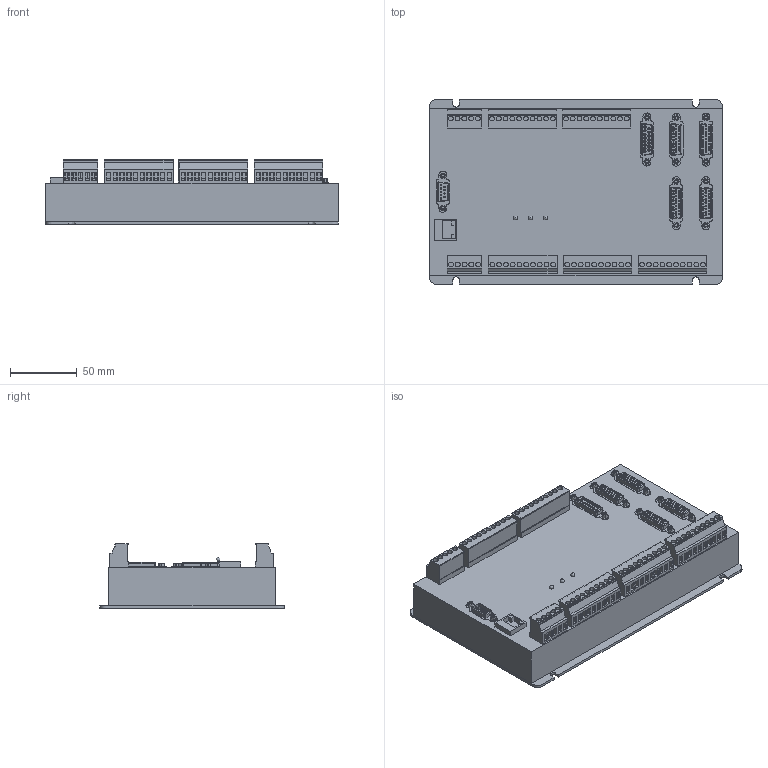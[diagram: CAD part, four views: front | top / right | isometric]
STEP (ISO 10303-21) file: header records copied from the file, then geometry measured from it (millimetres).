
FILE_DESCRIPTION(/* description */ (''),/* implementation_level */ '2;1');
FILE_NAME(/* name */ 'ECI2410模型3D.step',/* time_stamp */ '2020-05-31T22:01:38+08:00',/* author */ (''),/* organization */ (''),/* preprocessor_version */ 'ST-DEVELOPER v16',/* originating_system */ 'SIEMENS PLM Software NX 10.0',/* authorisation */ '');
FILE_SCHEMA (('AUTOMOTIVE_DESIGN { 1 0 10303 214 3 1 1 1 }'));
Length unit declared in the file: millimetre
Products named in the file (1): ECI2410模型3D
Bounding box: 220 x 138.5 x 48.67 mm (x, y, z)
Volume: 915398.8 mm3; surface area: 118730.4 mm2
Topology: 13 solids, 13 shells, 1604 faces, 3618 edges, 2247 vertices
Faces by surface type: plane 904, cylinder 417, torus 141, sphere 75, extrusion 38, bspline 23, cone 6
Full cylindrical faces by diameter (mm): 1 x113, 1.42 x15, 2.1 x12, 3.6 x50
Entity records: 46038 total; most frequent: CARTESIAN_POINT 9212, DIRECTION 7208, ORIENTED_EDGE 6288, EDGE_CURVE 3144, AXIS2_PLACEMENT_3D 2582, EDGE_LOOP 2218, VERTEX_POINT 2181, VECTOR 2044
